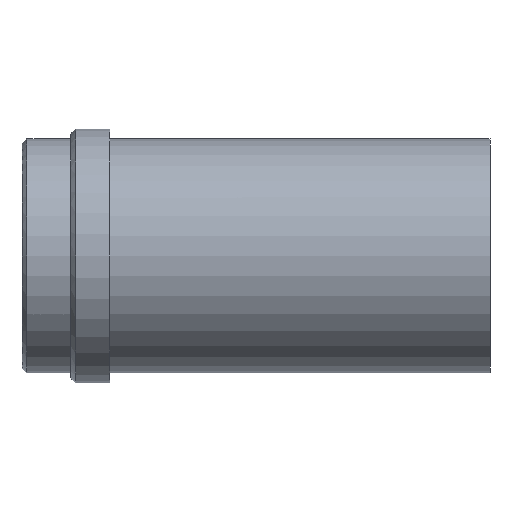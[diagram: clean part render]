
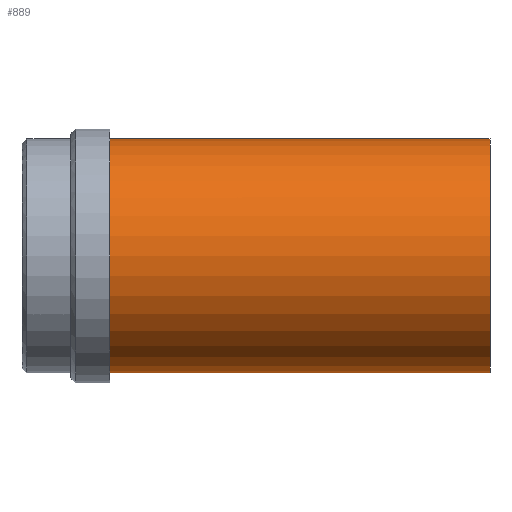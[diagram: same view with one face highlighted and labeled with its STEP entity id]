
A CAD part, front view. The second image highlights one B-rep face of the part: STEP entity #889.
In plain terms, the highlighted cylindrical face has radius 24 mm (diameter 48 mm), a partial arc.
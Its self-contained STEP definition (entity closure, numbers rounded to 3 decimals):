
#723=CARTESIAN_POINT('Vertex',(78.,0.,24.)) ;
#726=CARTESIAN_POINT('Axis2P3D Location',(78.,0.,0.)) ;
#730=CARTESIAN_POINT('Vertex',(78.,-24.,0.)) ;
#733=CARTESIAN_POINT('Axis2P3D Location',(78.,0.,0.)) ;
#737=CARTESIAN_POINT('Vertex',(78.,0.,-24.)) ;
#829=CARTESIAN_POINT('Line Origine',(78.,0.,24.)) ;
#833=CARTESIAN_POINT('Vertex',(0.,0.,24.)) ;
#836=CARTESIAN_POINT('Line Origine',(78.,0.,-24.)) ;
#840=CARTESIAN_POINT('Vertex',(0.,0.,-24.)) ;
#864=CARTESIAN_POINT('Axis2P3D Location',(78.,0.,0.)) ;
#869=CARTESIAN_POINT('Axis2P3D Location',(0.,0.,0.)) ;
#873=CARTESIAN_POINT('Vertex',(0.,-24.,0.)) ;
#876=CARTESIAN_POINT('Axis2P3D Location',(0.,0.,0.)) ;
#727=DIRECTION('Axis2P3D Direction',(1.,0.,-0.)) ;
#734=DIRECTION('Axis2P3D Direction',(1.,0.,-0.)) ;
#830=DIRECTION('Vector Direction',(-1.,0.,0.)) ;
#837=DIRECTION('Vector Direction',(-1.,0.,0.)) ;
#865=DIRECTION('Axis2P3D Direction',(-1.,-0.,-0.)) ;
#866=DIRECTION('Axis2P3D XDirection',(0.,0.,-1.)) ;
#870=DIRECTION('Axis2P3D Direction',(-1.,-0.,-0.)) ;
#877=DIRECTION('Axis2P3D Direction',(-1.,-0.,-0.)) ;
#728=AXIS2_PLACEMENT_3D('Circle Axis2P3D',#726,#727,$) ;
#735=AXIS2_PLACEMENT_3D('Circle Axis2P3D',#733,#734,$) ;
#867=AXIS2_PLACEMENT_3D('Cylinder Axis2P3D',#864,#865,#866) ;
#871=AXIS2_PLACEMENT_3D('Circle Axis2P3D',#869,#870,$) ;
#878=AXIS2_PLACEMENT_3D('Circle Axis2P3D',#876,#877,$) ;
#882=ORIENTED_EDGE('',*,*,#842,.T.) ;
#883=ORIENTED_EDGE('',*,*,#739,.F.) ;
#884=ORIENTED_EDGE('',*,*,#732,.F.) ;
#885=ORIENTED_EDGE('',*,*,#835,.T.) ;
#886=ORIENTED_EDGE('',*,*,#875,.T.) ;
#887=ORIENTED_EDGE('',*,*,#880,.T.) ;
#831=VECTOR('Line Direction',#830,1.) ;
#838=VECTOR('Line Direction',#837,1.) ;
#889=ADVANCED_FACE('358-40X96',(#888),#868,.T.) ;
#729=CIRCLE('generated circle',#728,24.) ;
#736=CIRCLE('generated circle',#735,24.) ;
#872=CIRCLE('generated circle',#871,24.) ;
#879=CIRCLE('generated circle',#878,24.) ;
#868=CYLINDRICAL_SURFACE('generated cylinder',#867,24.) ;
#732=EDGE_CURVE('',#724,#731,#729,.T.) ;
#739=EDGE_CURVE('',#731,#738,#736,.T.) ;
#835=EDGE_CURVE('',#724,#834,#832,.T.) ;
#842=EDGE_CURVE('',#841,#738,#839,.F.) ;
#875=EDGE_CURVE('',#834,#874,#872,.F.) ;
#880=EDGE_CURVE('',#874,#841,#879,.F.) ;
#881=EDGE_LOOP('',(#882,#883,#884,#885,#886,#887)) ;
#888=FACE_OUTER_BOUND('',#881,.T.) ;
#832=LINE('Line',#829,#831) ;
#839=LINE('Line',#836,#838) ;
#724=VERTEX_POINT('',#723) ;
#731=VERTEX_POINT('',#730) ;
#738=VERTEX_POINT('',#737) ;
#834=VERTEX_POINT('',#833) ;
#841=VERTEX_POINT('',#840) ;
#874=VERTEX_POINT('',#873) ;
